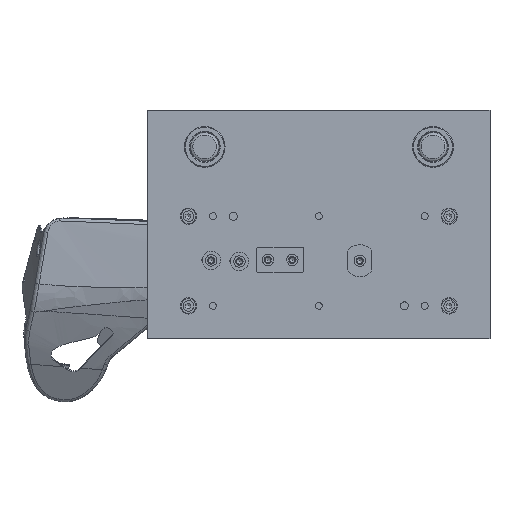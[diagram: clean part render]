
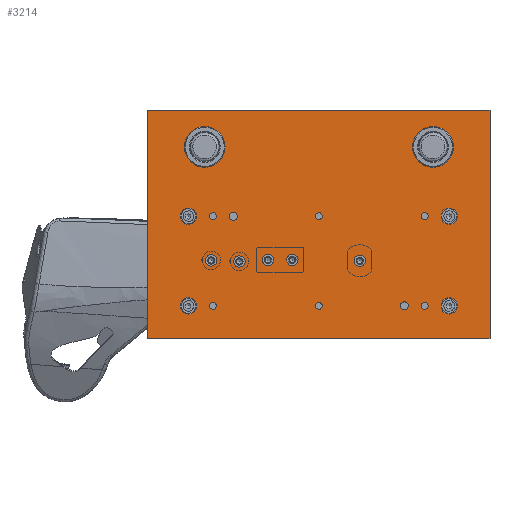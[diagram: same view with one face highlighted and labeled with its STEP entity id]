
A CAD part, top view. The second image highlights one B-rep face of the part: STEP entity #3214.
In plain terms, the highlighted planar face has unit normal (0, 0, 1).
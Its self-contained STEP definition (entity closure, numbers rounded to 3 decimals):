
#593=FACE_BOUND('',#6670,.T.);
#594=FACE_BOUND('',#6671,.T.);
#595=FACE_BOUND('',#6672,.T.);
#596=FACE_BOUND('',#6673,.T.);
#597=FACE_BOUND('',#6674,.T.);
#598=FACE_BOUND('',#6675,.T.);
#599=FACE_BOUND('',#6676,.T.);
#600=FACE_BOUND('',#6677,.T.);
#601=FACE_BOUND('',#6678,.T.);
#602=FACE_BOUND('',#6679,.T.);
#603=FACE_BOUND('',#6680,.T.);
#604=FACE_BOUND('',#6681,.T.);
#605=FACE_BOUND('',#6682,.T.);
#606=FACE_BOUND('',#6683,.T.);
#607=FACE_BOUND('',#6684,.T.);
#608=FACE_BOUND('',#6685,.T.);
#609=FACE_BOUND('',#6686,.T.);
#610=FACE_BOUND('',#6687,.T.);
#611=FACE_BOUND('',#6688,.T.);
#612=FACE_BOUND('',#6689,.T.);
#2010=PLANE('',#35107);
#3214=ADVANCED_FACE('',(#593,#594,#595,#596,#597,#598,#599,#600,#601,#602,
#603,#604,#605,#606,#607,#608,#609,#610,#611,#612),#2010,.T.);
#6670=EDGE_LOOP('',(#14702));
#6671=EDGE_LOOP('',(#14703));
#6672=EDGE_LOOP('',(#14704));
#6673=EDGE_LOOP('',(#14705));
#6674=EDGE_LOOP('',(#14706));
#6675=EDGE_LOOP('',(#14707));
#6676=EDGE_LOOP('',(#14708));
#6677=EDGE_LOOP('',(#14709));
#6678=EDGE_LOOP('',(#14710));
#6679=EDGE_LOOP('',(#14711));
#6680=EDGE_LOOP('',(#14712));
#6681=EDGE_LOOP('',(#14713));
#6682=EDGE_LOOP('',(#14714));
#6683=EDGE_LOOP('',(#14715));
#6684=EDGE_LOOP('',(#14716));
#6685=EDGE_LOOP('',(#14717,#14718,#14719,#14720));
#6686=EDGE_LOOP('',(#14721));
#6687=EDGE_LOOP('',(#14722));
#6688=EDGE_LOOP('',(#14723));
#6689=EDGE_LOOP('',(#14724));
#14702=ORIENTED_EDGE('',*,*,#26328,.F.);
#14703=ORIENTED_EDGE('',*,*,#26329,.F.);
#14704=ORIENTED_EDGE('',*,*,#26330,.F.);
#14705=ORIENTED_EDGE('',*,*,#26331,.F.);
#14706=ORIENTED_EDGE('',*,*,#26332,.F.);
#14707=ORIENTED_EDGE('',*,*,#26333,.F.);
#14708=ORIENTED_EDGE('',*,*,#26334,.F.);
#14709=ORIENTED_EDGE('',*,*,#26335,.F.);
#14710=ORIENTED_EDGE('',*,*,#26336,.T.);
#14711=ORIENTED_EDGE('',*,*,#26337,.T.);
#14712=ORIENTED_EDGE('',*,*,#26338,.T.);
#14713=ORIENTED_EDGE('',*,*,#26339,.F.);
#14714=ORIENTED_EDGE('',*,*,#26340,.F.);
#14715=ORIENTED_EDGE('',*,*,#26341,.F.);
#14716=ORIENTED_EDGE('',*,*,#26342,.F.);
#14717=ORIENTED_EDGE('',*,*,#26343,.F.);
#14718=ORIENTED_EDGE('',*,*,#26344,.F.);
#14719=ORIENTED_EDGE('',*,*,#26345,.F.);
#14720=ORIENTED_EDGE('',*,*,#26346,.F.);
#14721=ORIENTED_EDGE('',*,*,#26347,.F.);
#14722=ORIENTED_EDGE('',*,*,#26348,.F.);
#14723=ORIENTED_EDGE('',*,*,#26349,.T.);
#14724=ORIENTED_EDGE('',*,*,#26350,.T.);
#21264=VERTEX_POINT('',#137638);
#21265=VERTEX_POINT('',#137640);
#21266=VERTEX_POINT('',#137642);
#21267=VERTEX_POINT('',#137644);
#21268=VERTEX_POINT('',#137646);
#21269=VERTEX_POINT('',#137648);
#21270=VERTEX_POINT('',#137650);
#21271=VERTEX_POINT('',#137652);
#21272=VERTEX_POINT('',#137654);
#21273=VERTEX_POINT('',#137656);
#21274=VERTEX_POINT('',#137658);
#21275=VERTEX_POINT('',#137660);
#21276=VERTEX_POINT('',#137662);
#21277=VERTEX_POINT('',#137664);
#21278=VERTEX_POINT('',#137666);
#21279=VERTEX_POINT('',#137668);
#21280=VERTEX_POINT('',#137669);
#21281=VERTEX_POINT('',#137671);
#21282=VERTEX_POINT('',#137673);
#21283=VERTEX_POINT('',#137676);
#21284=VERTEX_POINT('',#137678);
#21285=VERTEX_POINT('',#137680);
#21286=VERTEX_POINT('',#137682);
#26328=EDGE_CURVE('',#21264,#21264,#32775,.T.);
#26329=EDGE_CURVE('',#21265,#21265,#32776,.T.);
#26330=EDGE_CURVE('',#21266,#21266,#32777,.T.);
#26331=EDGE_CURVE('',#21267,#21267,#32778,.T.);
#26332=EDGE_CURVE('',#21268,#21268,#32779,.T.);
#26333=EDGE_CURVE('',#21269,#21269,#32780,.T.);
#26334=EDGE_CURVE('',#21270,#21270,#32781,.T.);
#26335=EDGE_CURVE('',#21271,#21271,#32782,.T.);
#26336=EDGE_CURVE('',#21272,#21272,#32783,.T.);
#26337=EDGE_CURVE('',#21273,#21273,#32784,.T.);
#26338=EDGE_CURVE('',#21274,#21274,#32785,.T.);
#26339=EDGE_CURVE('',#21275,#21275,#32786,.T.);
#26340=EDGE_CURVE('',#21276,#21276,#32787,.T.);
#26341=EDGE_CURVE('',#21277,#21277,#32788,.T.);
#26342=EDGE_CURVE('',#21278,#21278,#32789,.T.);
#26343=EDGE_CURVE('',#21279,#21280,#33287,.T.);
#26344=EDGE_CURVE('',#21281,#21279,#33288,.T.);
#26345=EDGE_CURVE('',#21282,#21281,#33289,.T.);
#26346=EDGE_CURVE('',#21280,#21282,#33290,.T.);
#26347=EDGE_CURVE('',#21283,#21283,#32790,.T.);
#26348=EDGE_CURVE('',#21284,#21284,#32791,.T.);
#26349=EDGE_CURVE('',#21285,#21285,#32792,.T.);
#26350=EDGE_CURVE('',#21286,#21286,#32793,.T.);
#32775=CIRCLE('',#35088,25.);
#32776=CIRCLE('',#35089,25.);
#32777=CIRCLE('',#35090,7.);
#32778=CIRCLE('',#35091,7.);
#32779=CIRCLE('',#35092,7.);
#32780=CIRCLE('',#35093,7.);
#32781=CIRCLE('',#35094,7.);
#32782=CIRCLE('',#35095,4.25);
#32783=CIRCLE('',#35096,4.25);
#32784=CIRCLE('',#35097,5.);
#32785=CIRCLE('',#35098,4.25);
#32786=CIRCLE('',#35099,10.);
#32787=CIRCLE('',#35100,10.);
#32788=CIRCLE('',#35101,10.);
#32789=CIRCLE('',#35102,10.);
#32790=CIRCLE('',#35103,4.25);
#32791=CIRCLE('',#35104,4.25);
#32792=CIRCLE('',#35105,4.25);
#32793=CIRCLE('',#35106,5.);
#33287=LINE('',#137667,#34029);
#33288=LINE('',#137670,#34030);
#33289=LINE('',#137672,#34031);
#33290=LINE('',#137674,#34032);
#34029=VECTOR('',#37191,1.);
#34030=VECTOR('',#37192,1.);
#34031=VECTOR('',#37193,1.);
#34032=VECTOR('',#37194,1.);
#35088=AXIS2_PLACEMENT_3D('',#137637,#37161,#37162);
#35089=AXIS2_PLACEMENT_3D('',#137639,#37163,#37164);
#35090=AXIS2_PLACEMENT_3D('',#137641,#37165,#37166);
#35091=AXIS2_PLACEMENT_3D('',#137643,#37167,#37168);
#35092=AXIS2_PLACEMENT_3D('',#137645,#37169,#37170);
#35093=AXIS2_PLACEMENT_3D('',#137647,#37171,#37172);
#35094=AXIS2_PLACEMENT_3D('',#137649,#37173,#37174);
#35095=AXIS2_PLACEMENT_3D('',#137651,#37175,#37176);
#35096=AXIS2_PLACEMENT_3D('',#137653,#37177,#37178);
#35097=AXIS2_PLACEMENT_3D('',#137655,#37179,#37180);
#35098=AXIS2_PLACEMENT_3D('',#137657,#37181,#37182);
#35099=AXIS2_PLACEMENT_3D('',#137659,#37183,#37184);
#35100=AXIS2_PLACEMENT_3D('',#137661,#37185,#37186);
#35101=AXIS2_PLACEMENT_3D('',#137663,#37187,#37188);
#35102=AXIS2_PLACEMENT_3D('',#137665,#37189,#37190);
#35103=AXIS2_PLACEMENT_3D('',#137675,#37195,#37196);
#35104=AXIS2_PLACEMENT_3D('',#137677,#37197,#37198);
#35105=AXIS2_PLACEMENT_3D('',#137679,#37199,#37200);
#35106=AXIS2_PLACEMENT_3D('',#137681,#37201,#37202);
#35107=AXIS2_PLACEMENT_3D('',#137683,#37203,#37204);
#37161=DIRECTION('',(0.,0.,1.));
#37162=DIRECTION('',(1.,0.,0.));
#37163=DIRECTION('',(0.,0.,1.));
#37164=DIRECTION('',(1.,0.,0.));
#37165=DIRECTION('',(0.,0.,1.));
#37166=DIRECTION('',(1.,0.,0.));
#37167=DIRECTION('',(0.,0.,1.));
#37168=DIRECTION('',(1.,0.,0.));
#37169=DIRECTION('',(0.,0.,1.));
#37170=DIRECTION('',(1.,0.,0.));
#37171=DIRECTION('',(0.,0.,1.));
#37172=DIRECTION('',(1.,0.,0.));
#37173=DIRECTION('',(0.,0.,1.));
#37174=DIRECTION('',(1.,0.,0.));
#37175=DIRECTION('',(0.,0.,1.));
#37176=DIRECTION('',(1.,0.,0.));
#37177=DIRECTION('',(0.,0.,-1.));
#37178=DIRECTION('',(-1.,0.,0.));
#37179=DIRECTION('',(0.,0.,-1.));
#37180=DIRECTION('',(1.,0.,0.));
#37181=DIRECTION('',(0.,0.,-1.));
#37182=DIRECTION('',(1.,0.,0.));
#37183=DIRECTION('',(0.,0.,1.));
#37184=DIRECTION('',(1.,0.,0.));
#37185=DIRECTION('',(0.,0.,1.));
#37186=DIRECTION('',(1.,0.,0.));
#37187=DIRECTION('',(0.,0.,1.));
#37188=DIRECTION('',(1.,0.,0.));
#37189=DIRECTION('',(0.,0.,1.));
#37190=DIRECTION('',(1.,0.,0.));
#37191=DIRECTION('',(-1.,0.,0.));
#37192=DIRECTION('',(0.,-1.,0.));
#37193=DIRECTION('',(1.,0.,0.));
#37194=DIRECTION('',(0.,1.,0.));
#37195=DIRECTION('',(0.,0.,1.));
#37196=DIRECTION('',(-1.,0.,0.));
#37197=DIRECTION('',(0.,0.,1.));
#37198=DIRECTION('',(1.,0.,0.));
#37199=DIRECTION('',(0.,0.,-1.));
#37200=DIRECTION('',(1.,0.,0.));
#37201=DIRECTION('',(0.,0.,-1.));
#37202=DIRECTION('',(1.,0.,0.));
#37203=DIRECTION('',(0.,0.,1.));
#37204=DIRECTION('',(1.,0.,0.));
#137637=CARTESIAN_POINT('',(188.,123.203,88.53));
#137638=CARTESIAN_POINT('',(213.,123.203,88.53));
#137639=CARTESIAN_POINT('',(-92.,123.203,88.53));
#137640=CARTESIAN_POINT('',(-67.,123.203,88.53));
#137641=CARTESIAN_POINT('',(98.223,-16.505,88.53));
#137642=CARTESIAN_POINT('',(105.223,-16.505,88.53));
#137643=CARTESIAN_POINT('',(-49.434,-17.406,88.53));
#137644=CARTESIAN_POINT('',(-42.434,-17.406,88.53));
#137645=CARTESIAN_POINT('',(15.498,-15.5,88.53));
#137646=CARTESIAN_POINT('',(22.498,-15.5,88.53));
#137647=CARTESIAN_POINT('',(-83.948,-16.043,88.53));
#137648=CARTESIAN_POINT('',(-76.948,-16.043,88.53));
#137649=CARTESIAN_POINT('',(-14.502,-15.5,88.53));
#137650=CARTESIAN_POINT('',(-7.502,-15.5,88.53));
#137651=CARTESIAN_POINT('',(47.99,38.203,88.53));
#137652=CARTESIAN_POINT('',(52.24,38.203,88.53));
#137653=CARTESIAN_POINT('',(177.943,38.203,88.53));
#137654=CARTESIAN_POINT('',(173.693,38.203,88.53));
#137655=CARTESIAN_POINT('',(152.943,-71.912,88.53));
#137656=CARTESIAN_POINT('',(157.943,-71.912,88.53));
#137657=CARTESIAN_POINT('',(-82.01,-71.912,88.53));
#137658=CARTESIAN_POINT('',(-77.76,-71.912,88.53));
#137659=CARTESIAN_POINT('',(-112.01,-71.912,88.53));
#137660=CARTESIAN_POINT('',(-102.01,-71.912,88.53));
#137661=CARTESIAN_POINT('',(207.943,-71.912,88.53));
#137662=CARTESIAN_POINT('',(217.943,-71.912,88.53));
#137663=CARTESIAN_POINT('',(207.943,38.203,88.53));
#137664=CARTESIAN_POINT('',(217.943,38.203,88.53));
#137665=CARTESIAN_POINT('',(-112.01,38.203,88.53));
#137666=CARTESIAN_POINT('',(-102.01,38.203,88.53));
#137667=CARTESIAN_POINT('',(48.,-111.797,88.53));
#137668=CARTESIAN_POINT('',(258.,-111.797,88.53));
#137669=CARTESIAN_POINT('',(-162.,-111.797,88.53));
#137670=CARTESIAN_POINT('',(258.,53.203,88.53));
#137671=CARTESIAN_POINT('',(258.,168.203,88.53));
#137672=CARTESIAN_POINT('',(48.,168.203,88.53));
#137673=CARTESIAN_POINT('',(-162.,168.203,88.53));
#137674=CARTESIAN_POINT('',(-162.,53.203,88.53));
#137675=CARTESIAN_POINT('',(177.943,-71.912,88.53));
#137676=CARTESIAN_POINT('',(173.693,-71.912,88.53));
#137677=CARTESIAN_POINT('',(-82.01,38.203,88.53));
#137678=CARTESIAN_POINT('',(-77.76,38.203,88.53));
#137679=CARTESIAN_POINT('',(47.99,-71.912,88.53));
#137680=CARTESIAN_POINT('',(52.24,-71.912,88.53));
#137681=CARTESIAN_POINT('',(-57.01,38.203,88.53));
#137682=CARTESIAN_POINT('',(-52.01,38.203,88.53));
#137683=CARTESIAN_POINT('',(47.967,-16.855,88.53));
